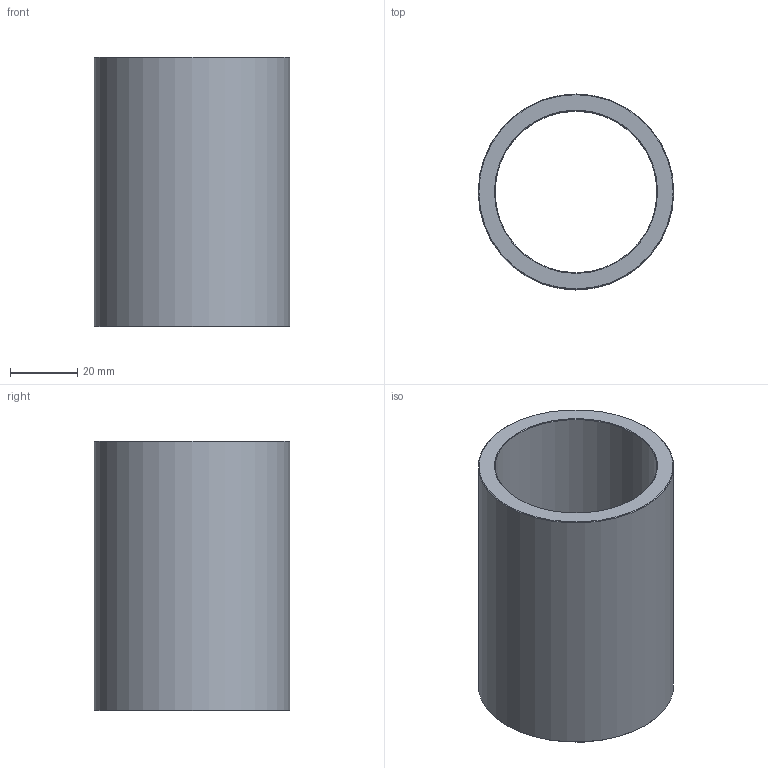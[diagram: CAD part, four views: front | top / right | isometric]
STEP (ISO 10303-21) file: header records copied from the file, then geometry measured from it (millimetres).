
FILE_DESCRIPTION(('STEP AP203'),'1');
FILE_NAME('C:/Users/Rodrigo/Desktop/GA5.048.080-1.step','2016-11-07T20:08:06',(' '),(' '),'Spatial InterOp 3D',' ',' ');
FILE_SCHEMA(('CONFIG_CONTROL_DESIGN'));
Length unit declared in the file: millimetre
Products named in the file (1): 1
Bounding box: 58 x 58 x 80 mm (x, y, z)
Volume: 66588.4 mm3; surface area: 28227.7 mm2
Topology: 1 solids, 1 shells, 8 faces, 14 edges, 8 vertices
Faces by surface type: cone 4, cylinder 2, plane 2
Full cylindrical faces by diameter (mm): 48 x1, 58 x1
Entity records: 212 total; most frequent: DIRECTION 34, CARTESIAN_POINT 25, AXIS2_PLACEMENT_3D 17, EDGE_LOOP 16, ORIENTED_EDGE 16, FACE_OUTER_BOUND 10, ADVANCED_FACE 8, EDGE_CURVE 8
